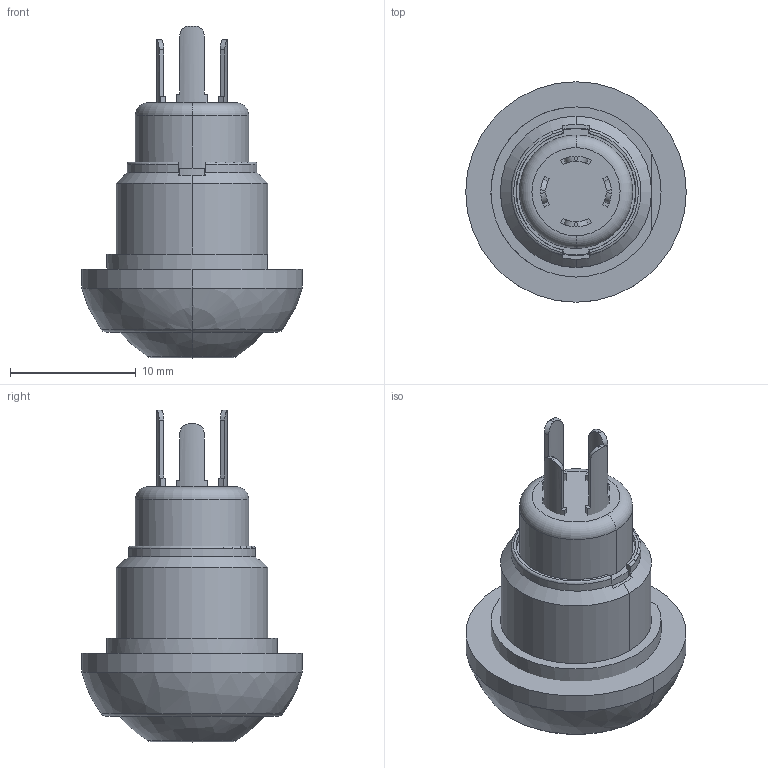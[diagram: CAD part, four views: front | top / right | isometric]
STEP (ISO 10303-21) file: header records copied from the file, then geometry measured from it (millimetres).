
FILE_DESCRIPTION((''),'2;1');
FILE_NAME('IPR3SAD2LOG_SW0001','2014-12-23T',('brevel'),(''),'PRO/ENGINEER BY PARAMETRIC TECHNOLOGY CORPORATION, 2013410','PRO/ENGINEER BY PARAMETRIC TECHNOLOGY CORPORATION, 2013410','');
FILE_SCHEMA(('CONFIG_CONTROL_DESIGN'));
Length unit declared in the file: millimetre
Products named in the file (1): IPR3SAD2LOG_SW0001
Bounding box: 17.5 x 17.5 x 26.35 mm (x, y, z)
Surface area: 1809.5 mm2 (no closed solid volume)
Topology: 0 solids, 10 shells, 93 faces, 339 edges, 251 vertices
Faces by surface type: plane 44, cylinder 31, torus 8, sphere 6, cone 2, bspline 2
Entity records: 4028 total; most frequent: CARTESIAN_POINT 1146, DIRECTION 619, ORIENTED_EDGE 551, EDGE_CURVE 334, VERTEX_POINT 251, AXIS2_PLACEMENT_3D 242, CIRCLE 151, VECTOR 135
